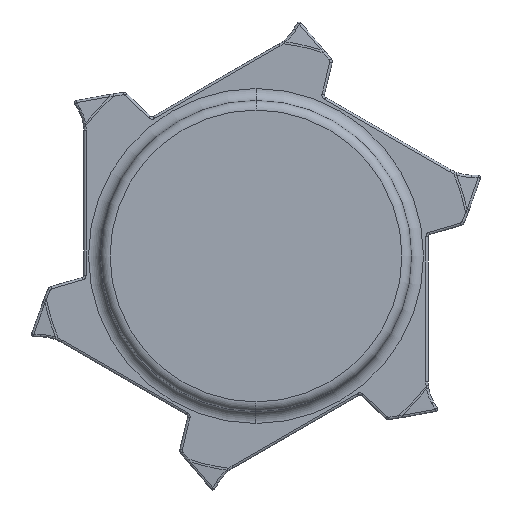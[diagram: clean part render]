
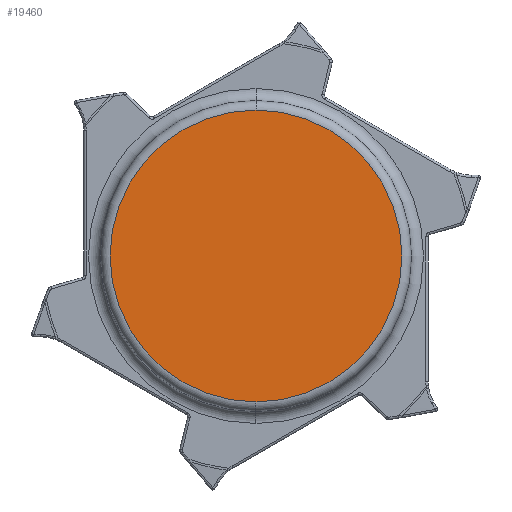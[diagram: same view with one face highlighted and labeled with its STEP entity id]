
A CAD part, left-side view. The second image highlights one B-rep face of the part: STEP entity #19460.
In plain terms, the highlighted planar face has unit normal (-1, 0, 0).
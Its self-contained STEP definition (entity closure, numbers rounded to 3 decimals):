
#5758=CARTESIAN_POINT('',(-21.15,0.,0.));
#5759=DIRECTION('',(-1.,0.,0.));
#5760=DIRECTION('',(0.,0.,1.));
#5761=AXIS2_PLACEMENT_3D('',#5758,#5759,#5760);
#5766=CARTESIAN_POINT('',(-21.15,0.,0.));
#5767=DIRECTION('',(1.,0.,0.));
#5768=DIRECTION('',(0.,0.,1.));
#5769=AXIS2_PLACEMENT_3D('',#5766,#5767,#5768);
#14225=CARTESIAN_POINT('',(-21.15,0.,30.5));
#14226=VERTEX_POINT('',#14225);
#14241=CARTESIAN_POINT('',(-21.15,0.,-30.5));
#14242=VERTEX_POINT('',#14241);
#19451=CARTESIAN_POINT('',(-21.15,0.,0.));
#19452=DIRECTION('',(1.,0.,0.));
#19453=DIRECTION('',(0.,0.,-1.));
#19454=AXIS2_PLACEMENT_3D('',#19451,#19452,#19453);
#19455=PLANE('',#19454);
#19456=ORIENTED_EDGE('',*,*,#19430,.F.);
#19457=ORIENTED_EDGE('',*,*,#19446,.T.);
#19458=EDGE_LOOP('',(#19456,#19457));
#19459=FACE_OUTER_BOUND('',#19458,.F.);
#5762=CIRCLE('',#5761,30.5);
#5770=CIRCLE('',#5769,30.5);
#19430=EDGE_CURVE('',#14226,#14242,#5762,.T.);
#19446=EDGE_CURVE('',#14226,#14242,#5770,.T.);
#19460=ADVANCED_FACE('',(#19459),#19455,.F.);
